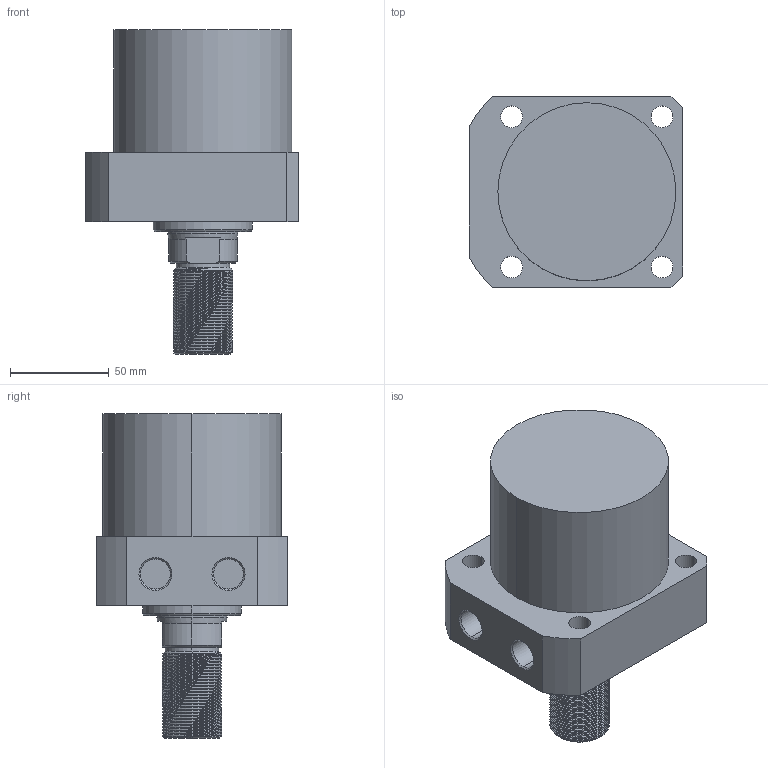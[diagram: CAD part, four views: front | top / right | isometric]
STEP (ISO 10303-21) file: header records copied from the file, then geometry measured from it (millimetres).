
FILE_DESCRIPTION (( 'STEP AP214' ), '1' );
FILE_NAME ('CLLR-090CT-040.STEP', '2020-01-09T06:31:37', ( 'Windows' ), ( 'Microsoft' ), 'SwSTEP 2.0', 'SolidWorks 2015', '' );
FILE_SCHEMA (( 'AUTOMOTIVE_DESIGN' ));
Length unit declared in the file: millimetre
Products named in the file (1): CLLR-090CT-040
Bounding box: 108 x 97 x 164 mm (x, y, z)
Volume: 786910.7 mm3; surface area: 66950.4 mm2
Topology: 1 solids, 1 shells, 124 faces, 329 edges, 215 vertices
Faces by surface type: cylinder 87, plane 20, cone 15, bspline 2
Entity records: 6949 total; most frequent: CARTESIAN_POINT 4123, ORIENTED_EDGE 658, DIRECTION 523, EDGE_CURVE 329, VERTEX_POINT 215, AXIS2_PLACEMENT_3D 200, EDGE_LOOP 140, FACE_OUTER_BOUND 124
